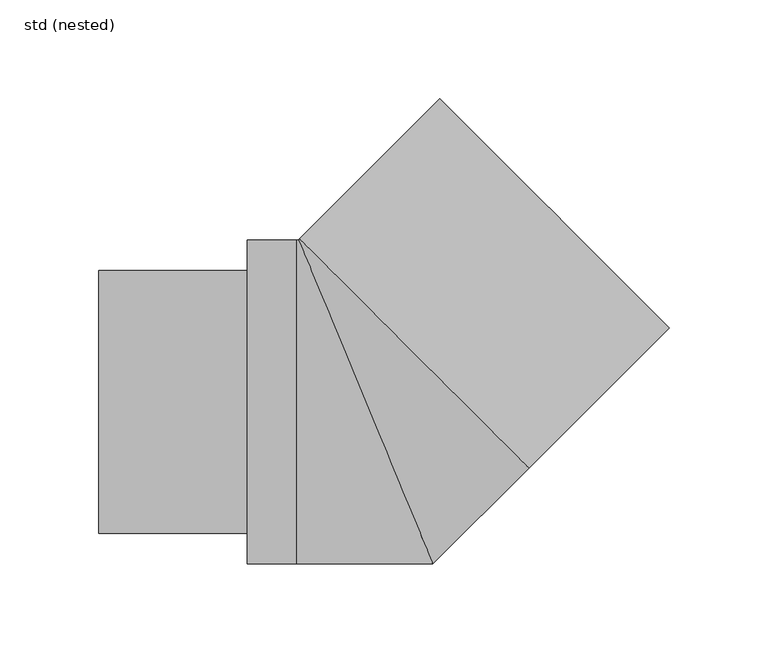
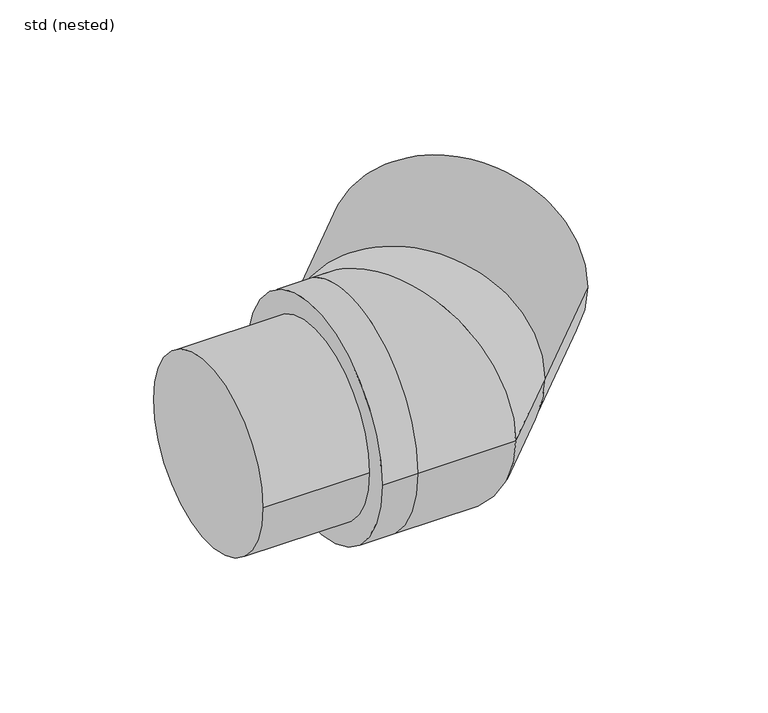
"""IFC4 building model written with IfcOpenShell, lengths in millimetres: pipe fitting geometry, ZZZ_do not use_PIF_ST_WPB_GM-X compound pipe bend_ACO : std (nested)."""

from ifc_helpers import new_model, si_unit, point, frame, origin, origin_2d, place, context, project, spatial, polyline, circle_curve, ellipse_curve, trimmed, segment, composite_curve, outline, extrude, source, transform, mapped, element, save
from ifc_brep_helpers import plane_surface, cylinder_surface, revolved_surface, advanced_brep


def std_nested_0b754541(model_context):
    return source(origin(), model_context, "Body", "SolidModel", [
        advanced_brep(
        [(35.7796031, 143.2598339, 0.0), (143.2598339, 35.7796031, 0.0), (120.9152596, 13.4350288, 0.0), (13.4350288, 120.9152596, 0.0), (144.9568901, 45.9619408, 0.0), (45.9619408, 144.9568901, 0.0), (48.4368145, 142.4820164, 0.0), (142.4820164, 48.4368145, 0.0), (91.9238816, -7.0710678, 0.0), (-7.0710678, 91.9238816, 0.0), (89.4490078, -4.5961941, 0.0), (-4.5961941, 89.4490078, 0.0), (139.0171932, 40.0222438, 0.0), (40.0222438, 139.0171932, 0.0), (17.6776695, 116.6726189, 0.0), (116.6726189, 17.6776695, 0.0)],
        [
            (0, 1, circle_curve(frame((89.5197185, 89.5197185, 0.0), z_axis=(-0.7071067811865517, -0.7071067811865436, 0.0), x_axis=(-0.7071067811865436, 0.7071067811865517, 0.0)), 76.0)),
            (1, 2),
            (2, 3, circle_curve(frame((67.1751442, 67.1751442, 0.0), z_axis=(0.7071067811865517, 0.7071067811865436, 0.0), x_axis=(-0.7071067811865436, 0.7071067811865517, 0.0)), 76.0)),
            (3, 0),
            (1, 0, circle_curve(frame((89.5197185, 89.5197185, 0.0), z_axis=(-0.7071067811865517, -0.7071067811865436, 0.0), x_axis=(-0.7071067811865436, 0.7071067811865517, 0.0)), 76.0)),
            (3, 2, circle_curve(frame((67.1751442, 67.1751442, 0.0), z_axis=(0.7071067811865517, 0.7071067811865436, 0.0), x_axis=(-0.7071067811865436, 0.7071067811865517, 0.0)), 76.0)),
            (4, 5, circle_curve(frame((95.4594155, 95.4594155, 0.0), z_axis=(0.7071067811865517, 0.7071067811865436, 0.0), x_axis=(-0.7071067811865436, 0.7071067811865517, 0.0)), 70.0)),
            (5, 4, circle_curve(frame((95.4594155, 95.4594155, 0.0), z_axis=(0.7071067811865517, 0.7071067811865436, 0.0), x_axis=(-0.7071067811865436, 0.7071067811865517, 0.0)), 70.0)),
            (6, 7, circle_curve(frame((95.4594155, 95.4594155, 0.0), z_axis=(-0.7071067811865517, -0.7071067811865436, 0.0), x_axis=(-0.7071067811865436, 0.7071067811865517, 0.0)), 66.5)),
            (7, 6, circle_curve(frame((95.4594155, 95.4594155, 0.0), z_axis=(-0.7071067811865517, -0.7071067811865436, 0.0), x_axis=(-0.7071067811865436, 0.7071067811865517, 0.0)), 66.5)),
            (8, 9, circle_curve(frame((42.4264069, 42.4264069, 0.0), z_axis=(-0.7071067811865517, -0.7071067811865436, 0.0), x_axis=(-0.7071067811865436, 0.7071067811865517, 0.0)), 70.0)),
            (9, 8, circle_curve(frame((42.4264069, 42.4264069, 0.0), z_axis=(-0.7071067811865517, -0.7071067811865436, 0.0), x_axis=(-0.7071067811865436, 0.7071067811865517, 0.0)), 70.0)),
            (10, 11, circle_curve(frame((42.4264069, 42.4264069, 0.0), z_axis=(0.7071067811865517, 0.7071067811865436, 0.0), x_axis=(-0.7071067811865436, 0.7071067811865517, 0.0)), 66.5)),
            (11, 10, circle_curve(frame((42.4264069, 42.4264069, 0.0), z_axis=(0.7071067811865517, 0.7071067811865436, 0.0), x_axis=(-0.7071067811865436, 0.7071067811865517, 0.0)), 66.5)),
            (4, 12),
            (12, 13, circle_curve(frame((89.5197185, 89.5197185, 0.0), z_axis=(0.7071067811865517, 0.7071067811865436, 0.0), x_axis=(-0.7071067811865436, 0.7071067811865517, 0.0)), 70.0)),
            (13, 5),
            (9, 14),
            (14, 15, circle_curve(frame((67.1751442, 67.1751442, 0.0), z_axis=(-0.7071067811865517, -0.7071067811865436, 0.0), x_axis=(-0.7071067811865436, 0.7071067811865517, 0.0)), 70.0)),
            (15, 8),
            (13, 12, circle_curve(frame((89.5197185, 89.5197185, 0.0), z_axis=(0.7071067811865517, 0.7071067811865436, 0.0), x_axis=(-0.7071067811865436, 0.7071067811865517, 0.0)), 70.0)),
            (15, 14, circle_curve(frame((67.1751442, 67.1751442, 0.0), z_axis=(-0.7071067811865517, -0.7071067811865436, 0.0), x_axis=(-0.7071067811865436, 0.7071067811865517, 0.0)), 70.0)),
            (6, 11),
            (10, 7),
        ],
        [
            cylinder_surface(frame((67.1751442, 67.1751442, 0.0), z_axis=(0.7071067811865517, 0.7071067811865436, 0.0), x_axis=(-0.7071067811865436, 0.7071067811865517, 0.0)), 76.0),
            plane_surface(frame((45.9619408, 144.9568901, 0.0), z_axis=(0.7071067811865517, 0.7071067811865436, 0.0), x_axis=(0.0, 0.0, 1.0))),
            plane_surface(frame((-7.0710678, 91.9238816, 0.0), z_axis=(-0.7071067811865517, -0.7071067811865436, 0.0), x_axis=(0.0, 0.0, -1.0))),
            cylinder_surface(frame((42.4264069, 42.4264069, 0.0), z_axis=(0.7071067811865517, 0.7071067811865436, 0.0), x_axis=(-0.7071067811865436, 0.7071067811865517, 0.0)), 70.0),
            revolved_surface(polyline([(48.436814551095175, 142.4820164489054, 0.0), (-4.596194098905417, 89.44900779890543, 0.0)]), (42.4264069, 42.4264069, 0.0), (0.7071067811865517, 0.7071067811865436, 0.0)),
            plane_surface(frame((35.7796031, 143.2598339, 0.0), z_axis=(0.7071067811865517, 0.7071067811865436, 0.0), x_axis=(0.0, 0.0, 1.0))),
            plane_surface(frame((13.4350288, 120.9152596, 0.0), z_axis=(-0.7071067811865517, -0.7071067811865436, 0.0), x_axis=(0.0, 0.0, -1.0))),
        ],
        [
            (0, [[1, 2, 3, 4]]),
            (0, [[5, -4, 6, -2]]),
            (1, [[7, 8], [9, 10]]),
            (2, [[11, 12], [13, 14]]),
            (3, [[-7, 15, 16, 17]]),
            (3, [[-12, 18, 19, 20]]),
            (3, [[-8, -17, 21, -15]]),
            (3, [[-11, -20, 22, -18]]),
            (4, [[23, -13, 24, -9]]),
            (4, [[-23, -10, -24, -14]]),
            (5, [[-1, -5], [-16, -21]]),
            (6, [[-6, -3], [-19, -22]]),
        ],
    ),
        extrude(outline(composite_curve([segment(trimmed(circle_curve(origin_2d(), 66.5), [point((-66.5, 0.0))], [point((66.5, 0.0))], False, "CARTESIAN"), True, "CONTINUOUS"), segment(trimmed(circle_curve(origin_2d(), 66.5), [point((66.5, 0.0))], [point((-66.5, 0.0))], False, "CARTESIAN"), True, "CONTINUOUS")], self_intersect=False)), frame((-135.0, 0.0, 0.0), z_axis=(1.0, 0.0, 0.0), x_axis=(0.0, 1.0, 0.0)), (0.0, 0.0, 1.0), 75.0),
        advanced_brep(
        [(37.4766594, 153.4421715, 0.0), (153.4421715, 37.4766594, 0.0), (144.9568901, 45.9619408, 0.0), (45.9619408, 144.9568901, 0.0), (-33.3797257, 82.5857864, 0.0), (82.5857864, -33.3797257, 0.0), (-34.7939392, -82.0, 0.0), (33.9655121, -82.0, 0.0), (-33.9655121, 82.0, 0.0), (-34.7939392, 82.0, 0.0), (-7.0710678, 91.9238816, 0.0), (91.9238816, -7.0710678, 0.0), (-60.0, -82.0, 0.0), (-60.0, 82.0, 0.0)],
        [
            (0, 1, circle_curve(frame((95.4594155, 95.4594155, 0.0), z_axis=(0.7071067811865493, 0.7071067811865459, 0.0), x_axis=(0.7071067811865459, -0.7071067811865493, 0.0)), 82.0)),
            (1, 0, circle_curve(frame((95.4594155, 95.4594155, 0.0), z_axis=(0.7071067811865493, 0.7071067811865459, 0.0), x_axis=(0.7071067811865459, -0.7071067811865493, 0.0)), 82.0)),
            (2, 3, circle_curve(frame((95.4594155, 95.4594155, 0.0), z_axis=(-0.7071067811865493, -0.7071067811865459, 0.0), x_axis=(0.7071067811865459, -0.7071067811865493, 0.0)), 70.0)),
            (3, 2, circle_curve(frame((95.4594155, 95.4594155, 0.0), z_axis=(-0.7071067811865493, -0.7071067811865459, 0.0), x_axis=(0.7071067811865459, -0.7071067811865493, 0.0)), 70.0)),
            (0, 4),
            (4, 5, circle_curve(frame((24.6030304, 24.6030304, 0.0), z_axis=(0.7071067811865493, 0.7071067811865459, 0.0), x_axis=(0.7071067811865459, -0.7071067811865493, 0.0)), 82.0)),
            (5, 1),
            (5, 4, circle_curve(frame((24.6030304, 24.6030304, 0.0), z_axis=(0.7071067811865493, 0.7071067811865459, 0.0), x_axis=(0.7071067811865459, -0.7071067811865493, 0.0)), 82.0)),
            (6, 7),
            (7, 8, ellipse_curve(frame((0.0, 0.0, 0.0), z_axis=(-0.9238795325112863, -0.38268343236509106, 0.0), x_axis=(-0.38268343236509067, 0.9238795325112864, 0.0)), 88.7561604, 82.0)),
            (8, 9),
            (9, 6, circle_curve(frame((-34.7939392, 0.0, 0.0), z_axis=(1.0, 0.0, 0.0), x_axis=(0.0, 1.0, 0.0)), 82.0)),
            (6, 9, circle_curve(frame((-34.7939392, 0.0, 0.0), z_axis=(1.0, 0.0, 0.0), x_axis=(0.0, 1.0, 0.0)), 82.0)),
            (8, 7, ellipse_curve(frame((0.0, 0.0, 0.0), z_axis=(-0.9238795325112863, -0.38268343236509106, 0.0), x_axis=(-0.38268343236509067, 0.9238795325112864, 0.0)), 88.7561604, 82.0)),
            (7, 5),
            (4, 8),
            (10, 11, circle_curve(frame((42.4264069, 42.4264069, 0.0), z_axis=(0.7071067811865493, 0.7071067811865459, 0.0), x_axis=(0.7071067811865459, -0.7071067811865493, 0.0)), 70.0)),
            (11, 10, circle_curve(frame((42.4264069, 42.4264069, 0.0), z_axis=(0.7071067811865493, 0.7071067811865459, 0.0), x_axis=(0.7071067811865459, -0.7071067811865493, 0.0)), 70.0)),
            (10, 3),
            (2, 11),
            (12, 13, circle_curve(frame((-60.0, 0.0, 0.0), z_axis=(-1.0, 0.0, 0.0), x_axis=(0.0, 1.0, 0.0)), 82.0)),
            (13, 12, circle_curve(frame((-60.0, 0.0, 0.0), z_axis=(-1.0, 0.0, 0.0), x_axis=(0.0, 1.0, 0.0)), 82.0)),
            (9, 13),
            (12, 6),
        ],
        [
            plane_surface(frame((153.4421715, 37.4766594, 0.0), z_axis=(0.7071067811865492, 0.7071067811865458, 0.0), x_axis=(0.0, 0.0, -1.0))),
            cylinder_surface(frame((24.6030304, 24.6030304, 0.0), z_axis=(0.7071067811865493, 0.7071067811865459, 0.0), x_axis=(0.7071067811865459, -0.7071067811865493, 0.0)), 82.0),
            cylinder_surface(frame((-34.7939392, 0.0, 0.0), z_axis=(-1.0, 0.0, 0.0), x_axis=(0.0, 1.0, 0.0)), 82.0),
            cylinder_surface(frame((0.0, 0.0, 0.0), z_axis=(-0.7071067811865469, -0.7071067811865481, 0.0), x_axis=(-0.7071067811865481, 0.7071067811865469, 0.0)), 82.0),
            plane_surface(frame((91.9238816, -7.0710678, 0.0), z_axis=(0.7071067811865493, 0.7071067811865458, 0.0), x_axis=(0.0, 0.0, 1.0))),
            revolved_surface(polyline([(144.95689018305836, 45.961940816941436, 0.0), (91.92388158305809, -7.071067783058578, 0.0)]), (42.4264069, 42.4264069, 0.0), (0.7071067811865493, 0.7071067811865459, 0.0)),
            plane_surface(frame((-60.0, 82.0, 0.0), z_axis=(-1.0, 0.0, 0.0), x_axis=(0.0, 0.0, 1.0))),
        ],
        [
            (0, [[1, 2], [3, 4]]),
            (1, [[-1, 5, 6, 7]]),
            (1, [[-2, -7, 8, -5]]),
            (2, [[9, 10, 11, 12]]),
            (2, [[-9, 13, -11, 14]]),
            (3, [[-10, 15, -6, 16]]),
            (3, [[-14, -16, -8, -15]]),
            (4, [[17, 18]]),
            (5, [[-17, 19, -3, 20]]),
            (5, [[-18, -20, -4, -19]]),
            (6, [[21, 22]]),
            (2, [[-12, 23, -21, 24]]),
            (2, [[-13, -24, -22, -23]]),
        ],
    ),
    ])


if __name__ == "__main__":
    model = new_model("IFC4")
    model_context = context("Model", 3, world=origin())
    ifc_project = project(units=[si_unit("LENGTHUNIT", "METRE", prefix="MILLI")], contexts=[model_context])
    site = spatial("IfcSite", under=ifc_project)
    building = spatial("IfcBuilding", under=site)
    placement = place(None, origin())
    std_nested_shape = std_nested_0b754541(model_context)
    element("IfcPipeFitting", 1, ObjectType="ZZZ_do not use_PIF_ST_WPB_GM-X compound pipe bend_ACO : std (nested)", at=placement, inside=building, context=model_context, shape_type="MappedRepresentation", body=[
        mapped(std_nested_shape, transform((0.0, 0.0, 0.0), x_axis=(1.0, 0.0, 0.0), y_axis=(0.0, 1.0, 0.0), z_axis=(0.0, 0.0, 1.0))),
    ])
    save(model, "model.ifc")
